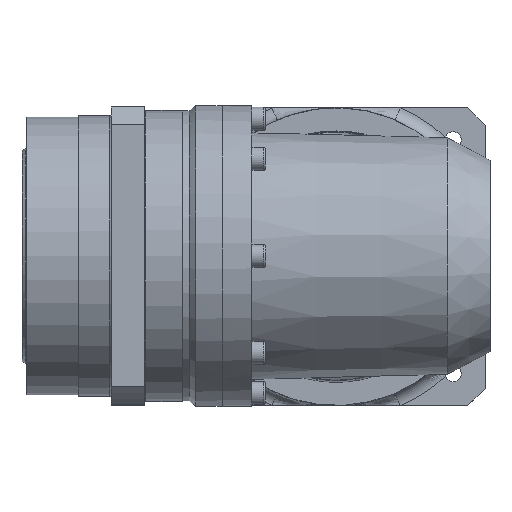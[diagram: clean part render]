
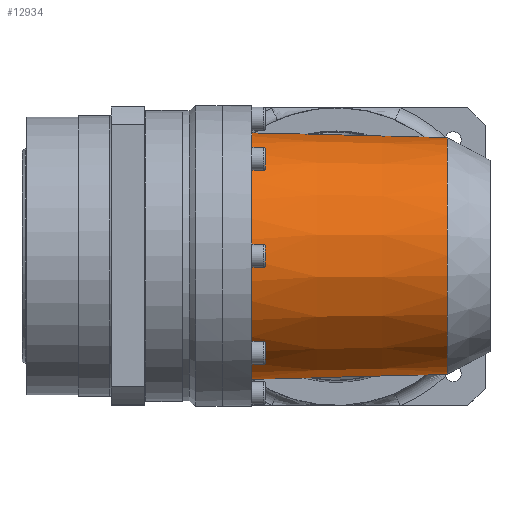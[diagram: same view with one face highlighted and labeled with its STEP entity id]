
A CAD part, top view. The second image highlights one B-rep face of the part: STEP entity #12934.
In plain terms, the highlighted conical face has half-angle 1.493 degrees and reference radius 36.52 mm.
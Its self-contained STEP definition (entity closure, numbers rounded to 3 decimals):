
#724=CONICAL_SURFACE('',#14388,36.52,0.026);
#1433=FACE_OUTER_BOUND('',#2185,.T.);
#2185=EDGE_LOOP('',(#9527,#9528,#9529,#9530,#9531,#9532,#9533,#9534,#9535,
#9536,#9537));
#2971=B_SPLINE_CURVE_WITH_KNOTS('',3,(#21556,#21557,#21558,#21559),
 .UNSPECIFIED.,.F.,.F.,(4,4),(-4.459,-0.312),
 .UNSPECIFIED.);
#2972=B_SPLINE_CURVE_WITH_KNOTS('',3,(#21562,#21563,#21564,#21565,#21566,
#21567),.UNSPECIFIED.,.F.,.F.,(4,2,4),(7.893,8.066,
8.315),.UNSPECIFIED.);
#2973=B_SPLINE_CURVE_WITH_KNOTS('',3,(#21578,#21579,#21580,#21581),
 .UNSPECIFIED.,.F.,.F.,(4,4),(-4.152,-0.005),
 .UNSPECIFIED.);
#2974=B_SPLINE_CURVE_WITH_KNOTS('',3,(#21583,#21584,#21585,#21586,#21587,
#21588),.UNSPECIFIED.,.F.,.F.,(4,2,4),(1.596,1.844,
2.017),.UNSPECIFIED.);
#2975=B_SPLINE_CURVE_WITH_KNOTS('',3,(#21589,#21590,#21591,#21592,#21593,
#21594,#21595,#21596,#21597,#21598,#21599,#21600,#21601,#21602,#21603,#21604,
#21605,#21606,#21607,#21608,#21609,#21610),.UNSPECIFIED.,.F.,.F.,(4,2,2,
2,2,2,2,2,2,2,4),(2.017,2.459,3.083,3.707,
4.331,4.955,5.579,6.203,6.827,
7.451,7.893),.UNSPECIFIED.);
#3218=LINE('',#21571,#3873);
#3873=VECTOR('',#16721,36.52);
#4541=CIRCLE('',#14389,37.29);
#4542=CIRCLE('',#14390,35.75);
#4543=CIRCLE('',#14391,35.75);
#4544=CIRCLE('',#14392,37.29);
#5674=VERTEX_POINT('',#21515);
#5677=VERTEX_POINT('',#21530);
#5678=VERTEX_POINT('',#21561);
#5679=VERTEX_POINT('',#21568);
#5680=VERTEX_POINT('',#21570);
#5681=VERTEX_POINT('',#21572);
#5682=VERTEX_POINT('',#21575);
#5683=VERTEX_POINT('',#21577);
#5684=VERTEX_POINT('',#21582);
#7225=EDGE_CURVE('',#5677,#5674,#2971,.T.);
#7226=EDGE_CURVE('',#5678,#5674,#2972,.T.);
#7227=EDGE_CURVE('',#5679,#5677,#4541,.T.);
#7228=EDGE_CURVE('',#5679,#5680,#3218,.T.);
#7229=EDGE_CURVE('',#5680,#5681,#4542,.T.);
#7230=EDGE_CURVE('',#5681,#5680,#4543,.T.);
#7231=EDGE_CURVE('',#5682,#5679,#4544,.T.);
#7232=EDGE_CURVE('',#5683,#5682,#2973,.T.);
#7233=EDGE_CURVE('',#5683,#5684,#2974,.T.);
#7234=EDGE_CURVE('',#5684,#5678,#2975,.T.);
#9527=ORIENTED_EDGE('',*,*,#7226,.T.);
#9528=ORIENTED_EDGE('',*,*,#7225,.F.);
#9529=ORIENTED_EDGE('',*,*,#7227,.F.);
#9530=ORIENTED_EDGE('',*,*,#7228,.T.);
#9531=ORIENTED_EDGE('',*,*,#7229,.T.);
#9532=ORIENTED_EDGE('',*,*,#7230,.T.);
#9533=ORIENTED_EDGE('',*,*,#7228,.F.);
#9534=ORIENTED_EDGE('',*,*,#7231,.F.);
#9535=ORIENTED_EDGE('',*,*,#7232,.F.);
#9536=ORIENTED_EDGE('',*,*,#7233,.T.);
#9537=ORIENTED_EDGE('',*,*,#7234,.T.);
#12934=ADVANCED_FACE('',(#1433),#724,.T.);
#14388=AXIS2_PLACEMENT_3D('',#21560,#16717,#16718);
#14389=AXIS2_PLACEMENT_3D('',#21569,#16719,#16720);
#14390=AXIS2_PLACEMENT_3D('',#21573,#16722,#16723);
#14391=AXIS2_PLACEMENT_3D('',#21574,#16724,#16725);
#14392=AXIS2_PLACEMENT_3D('',#21576,#16726,#16727);
#16717=DIRECTION('center_axis',(-1.,0.,0.));
#16718=DIRECTION('ref_axis',(0.,-1.,0.));
#16719=DIRECTION('center_axis',(-1.,0.,0.));
#16720=DIRECTION('ref_axis',(0.,0.,1.));
#16721=DIRECTION('',(1.,-0.026,0.));
#16722=DIRECTION('center_axis',(-1.,0.,0.));
#16723=DIRECTION('ref_axis',(0.,0.,1.));
#16724=DIRECTION('center_axis',(-1.,0.,0.));
#16725=DIRECTION('ref_axis',(0.,0.,1.));
#16726=DIRECTION('center_axis',(-1.,0.,0.));
#16727=DIRECTION('ref_axis',(0.,0.,1.));
#21515=CARTESIAN_POINT('',(50.455,-25.979,25.224));
#21530=CARTESIAN_POINT('',(9.,-26.553,26.182));
#21556=CARTESIAN_POINT('Ctrl Pts',(9.,-26.553,26.182));
#21557=CARTESIAN_POINT('Ctrl Pts',(22.818,-26.362,25.863));
#21558=CARTESIAN_POINT('Ctrl Pts',(36.637,-26.17,25.544));
#21559=CARTESIAN_POINT('Ctrl Pts',(50.455,-25.979,25.224));
#21560=CARTESIAN_POINT('Origin',(38.55,0.,0.));
#21561=CARTESIAN_POINT('',(53.981,-23.984,27.005));
#21562=CARTESIAN_POINT('Ctrl Pts',(53.981,-23.984,27.005));
#21563=CARTESIAN_POINT('Ctrl Pts',(53.524,-24.281,26.758));
#21564=CARTESIAN_POINT('Ctrl Pts',(53.058,-24.568,26.51));
#21565=CARTESIAN_POINT('Ctrl Pts',(51.892,-25.245,25.912));
#21566=CARTESIAN_POINT('Ctrl Pts',(51.183,-25.624,25.563));
#21567=CARTESIAN_POINT('Ctrl Pts',(50.455,-25.979,25.224));
#21568=CARTESIAN_POINT('',(9.,37.29,0.));
#21569=CARTESIAN_POINT('Origin',(9.,0.,0.));
#21570=CARTESIAN_POINT('',(68.1,35.75,0.));
#21571=CARTESIAN_POINT('',(38.55,36.52,0.));
#21572=CARTESIAN_POINT('',(68.1,-35.75,0.));
#21573=CARTESIAN_POINT('Origin',(68.1,0.,0.));
#21574=CARTESIAN_POINT('Origin',(68.1,0.,0.));
#21575=CARTESIAN_POINT('',(9.,26.553,26.182));
#21576=CARTESIAN_POINT('Origin',(9.,0.,0.));
#21577=CARTESIAN_POINT('',(50.455,25.979,25.224));
#21578=CARTESIAN_POINT('Ctrl Pts',(50.455,25.979,25.224));
#21579=CARTESIAN_POINT('Ctrl Pts',(36.637,26.17,25.544));
#21580=CARTESIAN_POINT('Ctrl Pts',(22.818,26.362,25.863));
#21581=CARTESIAN_POINT('Ctrl Pts',(9.,26.553,26.182));
#21582=CARTESIAN_POINT('',(53.981,23.984,27.005));
#21583=CARTESIAN_POINT('Ctrl Pts',(50.455,25.979,25.224));
#21584=CARTESIAN_POINT('Ctrl Pts',(51.183,25.624,25.563));
#21585=CARTESIAN_POINT('Ctrl Pts',(51.892,25.245,25.912));
#21586=CARTESIAN_POINT('Ctrl Pts',(53.058,24.568,26.51));
#21587=CARTESIAN_POINT('Ctrl Pts',(53.524,24.281,26.758));
#21588=CARTESIAN_POINT('Ctrl Pts',(53.981,23.984,27.005));
#21589=CARTESIAN_POINT('Ctrl Pts',(53.981,23.984,27.005));
#21590=CARTESIAN_POINT('Ctrl Pts',(55.153,23.221,27.642));
#21591=CARTESIAN_POINT('Ctrl Pts',(56.255,22.395,28.282));
#21592=CARTESIAN_POINT('Ctrl Pts',(58.71,20.295,29.765));
#21593=CARTESIAN_POINT('Ctrl Pts',(60.093,18.881,30.654));
#21594=CARTESIAN_POINT('Ctrl Pts',(62.584,15.725,32.315));
#21595=CARTESIAN_POINT('Ctrl Pts',(63.692,13.983,33.086));
#21596=CARTESIAN_POINT('Ctrl Pts',(65.512,10.258,34.374));
#21597=CARTESIAN_POINT('Ctrl Pts',(66.226,8.272,34.892));
#21598=CARTESIAN_POINT('Ctrl Pts',(67.18,4.182,35.589));
#21599=CARTESIAN_POINT('Ctrl Pts',(67.421,2.08,35.768));
#21600=CARTESIAN_POINT('Ctrl Pts',(67.421,-2.08,35.768));
#21601=CARTESIAN_POINT('Ctrl Pts',(67.18,-4.182,35.589));
#21602=CARTESIAN_POINT('Ctrl Pts',(66.226,-8.272,34.892));
#21603=CARTESIAN_POINT('Ctrl Pts',(65.512,-10.258,34.374));
#21604=CARTESIAN_POINT('Ctrl Pts',(63.692,-13.983,33.086));
#21605=CARTESIAN_POINT('Ctrl Pts',(62.584,-15.725,32.315));
#21606=CARTESIAN_POINT('Ctrl Pts',(60.093,-18.881,30.654));
#21607=CARTESIAN_POINT('Ctrl Pts',(58.71,-20.295,29.765));
#21608=CARTESIAN_POINT('Ctrl Pts',(56.255,-22.395,28.282));
#21609=CARTESIAN_POINT('Ctrl Pts',(55.153,-23.221,27.642));
#21610=CARTESIAN_POINT('Ctrl Pts',(53.981,-23.984,27.005));
